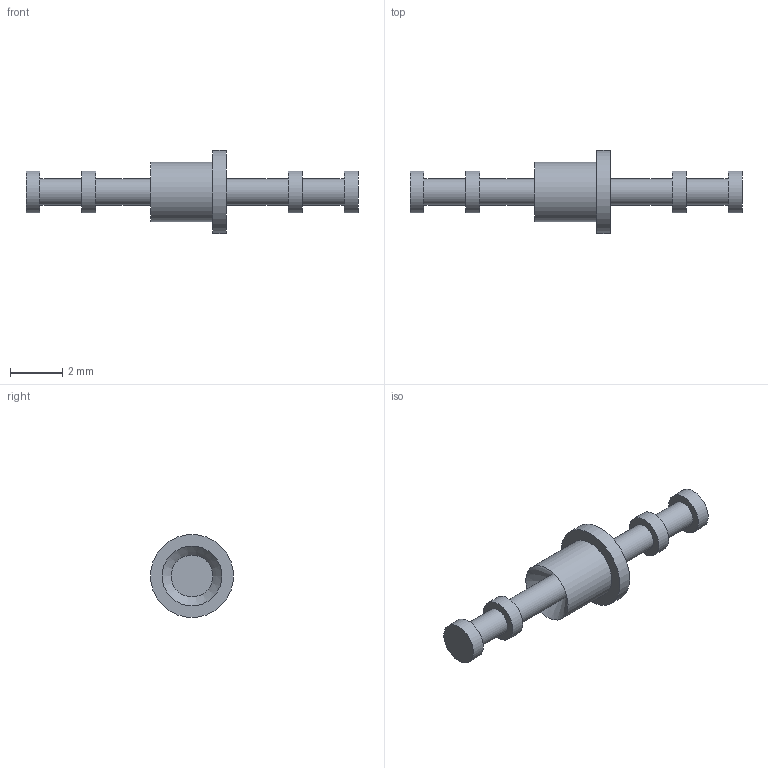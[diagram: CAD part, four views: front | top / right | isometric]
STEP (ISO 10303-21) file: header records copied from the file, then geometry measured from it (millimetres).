
FILE_DESCRIPTION(/* description */ (''),/* implementation_level */ '2;1');
FILE_NAME(/* name */ 'Z:\STEP folder\160-2004-02.ipt.stp',/* time_stamp */ '2016-12-07T10:49:38+00:00',/* author */ ('Paul Karlsons'),/* organization */ (''),/* preprocessor_version */ 'ST-DEVELOPER v15.2',/* originating_system */ 'Autodesk Inventor 2014',/* authorisation */ '');
FILE_SCHEMA (('AUTOMOTIVE_DESIGN { 1 0 10303 214 3 1 1 }'));
Length unit declared in the file: millimetre
Products named in the file (1): 160-2004-02
Bounding box: 12.7 x 3.17 x 3.17 mm (x, y, z)
Volume: 23.5 mm3; surface area: 86.3 mm2
Topology: 1 solids, 1 shells, 21 faces, 31 edges, 20 vertices
Faces by surface type: cylinder 10, plane 10, cone 1
Full cylindrical faces by diameter (mm): 1.016 x4, 1.6 x4, 2.286 x1, 3.175 x1
Entity records: 435 total; most frequent: DIRECTION 84, CARTESIAN_POINT 62, AXIS2_PLACEMENT_3D 42, EDGE_LOOP 40, ORIENTED_EDGE 40, FACE_BOUND 23, ADVANCED_FACE 21, CIRCLE 20
